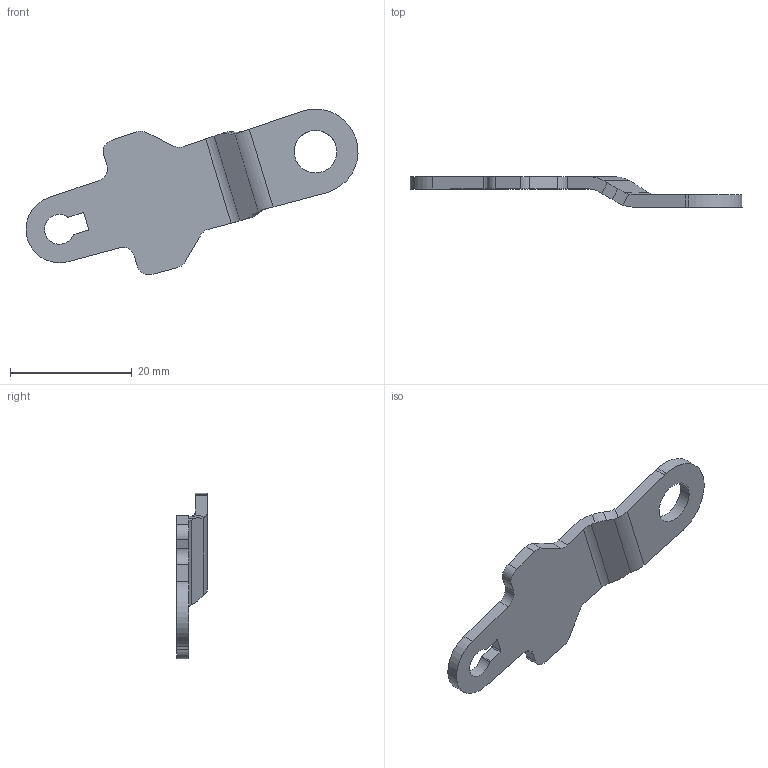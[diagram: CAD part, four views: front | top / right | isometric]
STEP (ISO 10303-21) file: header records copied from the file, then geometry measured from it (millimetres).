
FILE_DESCRIPTION(('CATIA V5 STEP Exchange'),'2;1');
FILE_NAME('C:\Users\nobody\Desktop\SHT0017059_shizhi_20250609.stp','2025-06-09T01:17:40+00:00',('none'),('none'),'CATIA Version 5 Release 20 GA (IN-10)','CATIA V5 STEP AP203 Edition 2','none');
FILE_SCHEMA(('AP203_CONFIGURATION_CONTROLLED_3D_DESIGN_OF_MECHANICAL_PARTS_AND_ASSEMBLIES_MIM_LF { 1 0 10303 403 2 1 2}'));
Length unit declared in the file: millimetre
Products named in the file (1): SHT0017059
Bounding box: 54.59 x 5 x 27.23 mm (x, y, z)
Volume: 1492.3 mm3; surface area: 1857.5 mm2
Topology: 1 solids, 1 shells, 50 faces, 150 edges, 102 vertices
Faces by surface type: cylinder 29, plane 21
Entity records: 1741 total; most frequent: CARTESIAN_POINT 410, ORIENTED_EDGE 300, DIRECTION 219, EDGE_CURVE 150, VERTEX_POINT 102, AXIS2_PLACEMENT_3D 94, VECTOR 78, LINE 78
